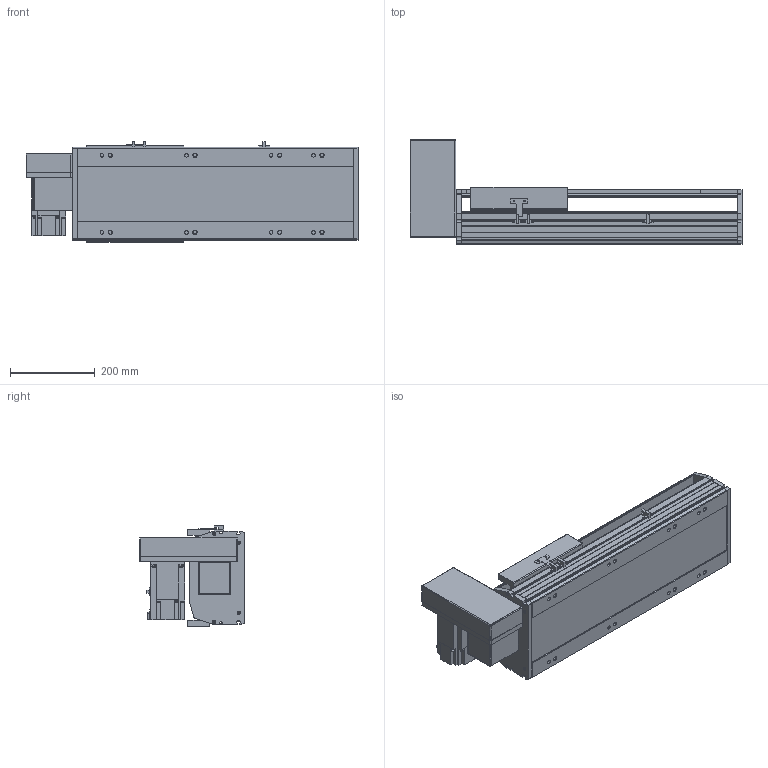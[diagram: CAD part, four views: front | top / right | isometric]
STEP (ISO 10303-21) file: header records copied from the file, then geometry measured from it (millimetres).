
FILE_DESCRIPTION(/* description */ ('STEP AP214'),/* implementation_level */ '2;1');
FILE_NAME(/* name */ 'PBS220-P40-S300-RU-T75-C1-N(0)',/* time_stamp */ '2022-06-13T02:49:47+02:00',/* author */ ('License CC BY-ND 4.0'),/* organization */ ('CADENAS'),/* preprocessor_version */ 'ST-DEVELOPER v18.102',/* originating_system */ 'PARTsolutions',/* authorisation */ ' ');
FILE_SCHEMA (('AUTOMOTIVE_DESIGN {1 0 10303 214 3 1 1}'));
Length unit declared in the file: millimetre
Products named in the file (7): PBS220-P40-S300-RU-T75-C1-N(0); PBS220_sensor; PBS220_plant; PBS220_sliser; T75-p1; PBS220T-RU_motors; PBS220-S300()_body
Assembly tree (8 placements, depth 2):
  PBS220-P40-S300-RU-T75-C1-N(0)
    PBS220_sensor  x3
    PBS220_plant
    PBS220_sliser
    T75-p1
    PBS220T-RU_motors
    PBS220-S300()_body
Bounding box: 784 x 247 x 238.5 mm (x, y, z)
Volume: 12028838.6 mm3; surface area: 1298482.5 mm2
Topology: 8 solids, 8 shells, 866 faces, 2284 edges, 1486 vertices
Faces by surface type: plane 582, cylinder 252, cone 32
Full cylindrical faces by diameter (mm): 2.013 x4, 4.5 x14, 4.917 x4, 6 x7, 6.647 x8, 8 x10, 8.376 x8, 8.5 x8, 10 x6, 14 x8, 38 x2, 40 x1, 70 x1
Entity records: 24381 total; most frequent: DIRECTION 4239, CARTESIAN_POINT 4228, ORIENTED_EDGE 3962, EDGE_CURVE 1981, AXIS2_PLACEMENT_3D 1451, VERTEX_POINT 1352, LINE 1337, VECTOR 1337
